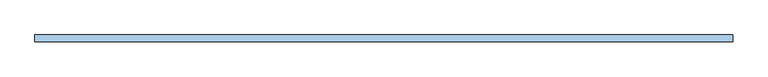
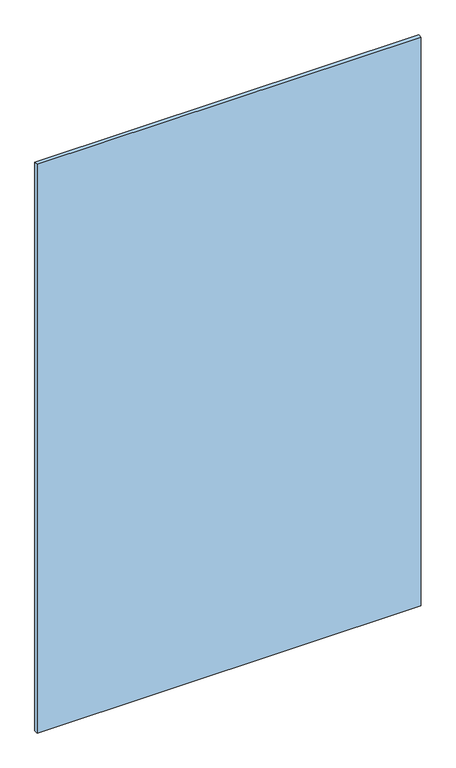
"""IFC4 building model written with IfcOpenShell, lengths in millimetres: window geometry, Baño 1 Hueco lateral : CA-2-cancel baño-1.455 2."""

from ifc_helpers import new_model, si_unit, origin, origin_with_axes, place, context, project, spatial, polyline, outline, extrude, source, transform, mapped, element, save


def window_c4889b8b(model_context):
    return source(origin(), model_context, "Body", "SweptSolid", [
        extrude(outline(polyline([(-900.0, -5.5), (-900.0, 5.5), (250.0, 5.5), (250.0, -5.5), (-900.0, -5.5)])), origin_with_axes(), (0.0, 0.0, 1.0), 1800.0),
    ])


if __name__ == "__main__":
    model = new_model("IFC4")
    model_context = context("Model", 3, world=origin())
    ifc_project = project(units=[si_unit("LENGTHUNIT", "METRE", prefix="MILLI")], contexts=[model_context])
    site = spatial("IfcSite", under=ifc_project)
    building = spatial("IfcBuilding", under=site)
    placement = place(None, origin())
    window_shape = window_c4889b8b(model_context)
    element("IfcWindow", 1, ObjectType="Baño 1 Hueco lateral : CA-2-cancel baño-1.455 2", at=placement, inside=building, context=model_context, shape_type="MappedRepresentation", body=[
        mapped(window_shape, transform((0.0, 0.0, 0.0), x_axis=(1.0, 0.0, 0.0), y_axis=(0.0, 1.0, 0.0), z_axis=(0.0, 0.0, 1.0))),
    ])
    save(model, "model.ifc")
